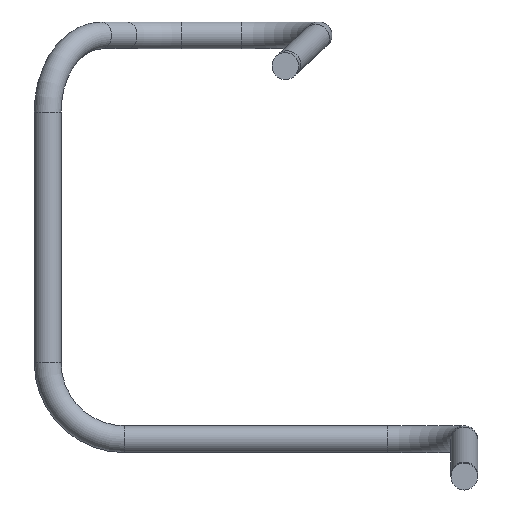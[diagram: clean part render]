
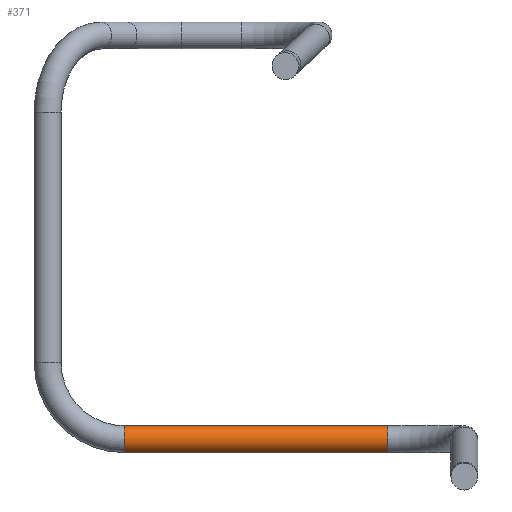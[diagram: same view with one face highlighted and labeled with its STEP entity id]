
A CAD part, front view. The second image highlights one B-rep face of the part: STEP entity #371.
In plain terms, the highlighted cylindrical face has radius 0.525 mm (diameter 1.05 mm), a full revolution.
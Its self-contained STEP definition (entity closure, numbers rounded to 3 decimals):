
#305 = TOROIDAL_SURFACE('',#306,3.,0.525);
#306 = AXIS2_PLACEMENT_3D('',#307,#308,#309);
#307 = CARTESIAN_POINT('',(-19.,44.65,-19.3));
#308 = DIRECTION('',(-0.,-0.,1.));
#309 = DIRECTION('',(1.,0.,0.));
#322 = VERTEX_POINT('',#323);
#323 = CARTESIAN_POINT('',(-19.,47.65,-18.775));
#344 = EDGE_CURVE('',#322,#322,#345,.T.);
#345 = SURFACE_CURVE('',#346,(#351,#358),.PCURVE_S1.);
#346 = CIRCLE('',#347,0.525);
#347 = AXIS2_PLACEMENT_3D('',#348,#349,#350);
#348 = CARTESIAN_POINT('',(-19.,47.65,-19.3));
#349 = DIRECTION('',(1.,0.,0.));
#350 = DIRECTION('',(0.,1.,0.));
#351 = PCURVE('',#305,#352);
#352 = DEFINITIONAL_REPRESENTATION('',(#353),#357);
#353 = LINE('',#354,#355);
#354 = CARTESIAN_POINT('',(1.571,0.));
#355 = VECTOR('',#356,1.);
#356 = DIRECTION('',(0.,1.));
#357 = ( GEOMETRIC_REPRESENTATION_CONTEXT(2) 
PARAMETRIC_REPRESENTATION_CONTEXT() REPRESENTATION_CONTEXT('2D SPACE',''
  ) );
#358 = PCURVE('',#359,#364);
#359 = CYLINDRICAL_SURFACE('',#360,0.525);
#360 = AXIS2_PLACEMENT_3D('',#361,#362,#363);
#361 = CARTESIAN_POINT('',(-19.,47.65,-19.3));
#362 = DIRECTION('',(-1.,0.,0.));
#363 = DIRECTION('',(0.,0.,1.));
#364 = DEFINITIONAL_REPRESENTATION('',(#365),#368);
#365 = B_SPLINE_CURVE_WITH_KNOTS('',1,(#366,#367),.UNSPECIFIED.,.F.,.F.,
  (2,2),(1.571,7.854),.PIECEWISE_BEZIER_KNOTS.);
#366 = CARTESIAN_POINT('',(6.283,0.));
#367 = CARTESIAN_POINT('',(0.,0.));
#368 = ( GEOMETRIC_REPRESENTATION_CONTEXT(2) 
PARAMETRIC_REPRESENTATION_CONTEXT() REPRESENTATION_CONTEXT('2D SPACE',''
  ) );
#371 = ADVANCED_FACE('',(#372),#359,.T.);
#372 = FACE_BOUND('',#373,.T.);
#373 = EDGE_LOOP('',(#374,#396,#422,#423));
#374 = ORIENTED_EDGE('',*,*,#375,.T.);
#375 = EDGE_CURVE('',#322,#376,#378,.T.);
#376 = VERTEX_POINT('',#377);
#377 = CARTESIAN_POINT('',(-29.3,47.65,-18.775));
#378 = SEAM_CURVE('',#379,(#383,#389),.PCURVE_S1.);
#379 = LINE('',#380,#381);
#380 = CARTESIAN_POINT('',(-19.,47.65,-18.775));
#381 = VECTOR('',#382,1.);
#382 = DIRECTION('',(-1.,0.,0.));
#383 = PCURVE('',#359,#384);
#384 = DEFINITIONAL_REPRESENTATION('',(#385),#388);
#385 = B_SPLINE_CURVE_WITH_KNOTS('',1,(#386,#387),.UNSPECIFIED.,.F.,.F.,
  (2,2),(0.,10.3),.PIECEWISE_BEZIER_KNOTS.);
#386 = CARTESIAN_POINT('',(6.283,0.));
#387 = CARTESIAN_POINT('',(6.283,10.3));
#388 = ( GEOMETRIC_REPRESENTATION_CONTEXT(2) 
PARAMETRIC_REPRESENTATION_CONTEXT() REPRESENTATION_CONTEXT('2D SPACE',''
  ) );
#389 = PCURVE('',#359,#390);
#390 = DEFINITIONAL_REPRESENTATION('',(#391),#395);
#391 = LINE('',#392,#393);
#392 = CARTESIAN_POINT('',(0.,0.));
#393 = VECTOR('',#394,1.);
#394 = DIRECTION('',(0.,1.));
#395 = ( GEOMETRIC_REPRESENTATION_CONTEXT(2) 
PARAMETRIC_REPRESENTATION_CONTEXT() REPRESENTATION_CONTEXT('2D SPACE',''
  ) );
#396 = ORIENTED_EDGE('',*,*,#397,.F.);
#397 = EDGE_CURVE('',#376,#376,#398,.T.);
#398 = SURFACE_CURVE('',#399,(#404,#411),.PCURVE_S1.);
#399 = CIRCLE('',#400,0.525);
#400 = AXIS2_PLACEMENT_3D('',#401,#402,#403);
#401 = CARTESIAN_POINT('',(-29.3,47.65,-19.3));
#402 = DIRECTION('',(-1.,0.,0.));
#403 = DIRECTION('',(0.,0.,1.));
#404 = PCURVE('',#359,#405);
#405 = DEFINITIONAL_REPRESENTATION('',(#406),#410);
#406 = LINE('',#407,#408);
#407 = CARTESIAN_POINT('',(0.,10.3));
#408 = VECTOR('',#409,1.);
#409 = DIRECTION('',(1.,0.));
#410 = ( GEOMETRIC_REPRESENTATION_CONTEXT(2) 
PARAMETRIC_REPRESENTATION_CONTEXT() REPRESENTATION_CONTEXT('2D SPACE',''
  ) );
#411 = PCURVE('',#412,#417);
#412 = TOROIDAL_SURFACE('',#413,3.,0.525);
#413 = AXIS2_PLACEMENT_3D('',#414,#415,#416);
#414 = CARTESIAN_POINT('',(-29.3,47.65,-16.3));
#415 = DIRECTION('',(0.,1.,0.));
#416 = DIRECTION('',(0.,0.,-1.));
#417 = DEFINITIONAL_REPRESENTATION('',(#418),#421);
#418 = B_SPLINE_CURVE_WITH_KNOTS('',1,(#419,#420),.UNSPECIFIED.,.F.,.F.,
  (2,2),(0.,6.283),.PIECEWISE_BEZIER_KNOTS.);
#419 = CARTESIAN_POINT('',(0.,9.425));
#420 = CARTESIAN_POINT('',(0.,3.142));
#421 = ( GEOMETRIC_REPRESENTATION_CONTEXT(2) 
PARAMETRIC_REPRESENTATION_CONTEXT() REPRESENTATION_CONTEXT('2D SPACE',''
  ) );
#422 = ORIENTED_EDGE('',*,*,#375,.F.);
#423 = ORIENTED_EDGE('',*,*,#344,.F.);
